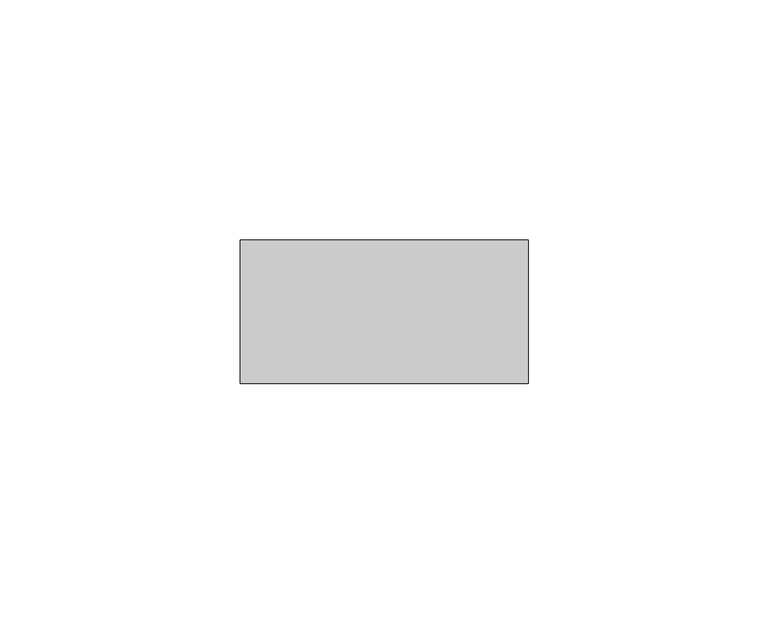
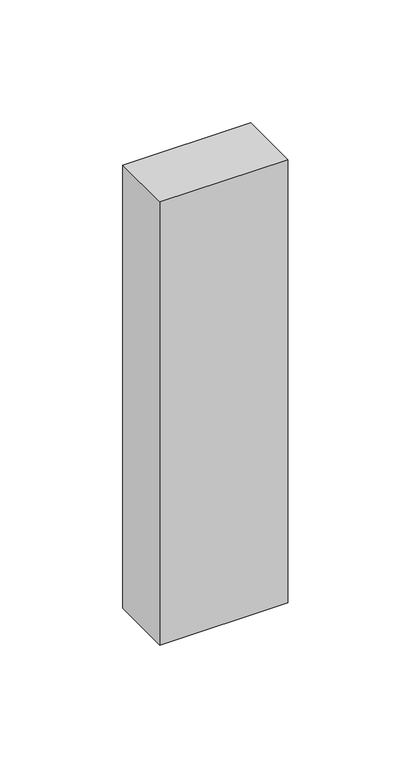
"""IFC4 building model written with IfcOpenShell, lengths in millimetres: member geometry, Прямоугольный импост : Квадрат 30 мм."""

from ifc_helpers import new_model, si_unit, frame, origin, place, context, project, spatial, polyline, outline, extrude, source, transform, mapped, element, save


def member_22bdb065(model_context):
    return source(origin(), model_context, "Body", "SweptSolid", [
        extrude(outline(polyline([(30.0, 15.0), (30.0, -15.0), (-30.0, -15.0), (-30.0, 15.0), (30.0, 15.0)])), frame((0.0, 0.0, -220.0), z_axis=(0.0, 0.0, 1.0), x_axis=(1.0, 0.0, 0.0)), (0.0, 0.0, 1.0), 220.0),
    ])


if __name__ == "__main__":
    model = new_model("IFC4")
    model_context = context("Model", 3, world=origin())
    ifc_project = project(units=[si_unit("LENGTHUNIT", "METRE", prefix="MILLI")], contexts=[model_context])
    site = spatial("IfcSite", under=ifc_project)
    building = spatial("IfcBuilding", under=site)
    placement = place(None, origin())
    member_shape = member_22bdb065(model_context)
    element("IfcMember", 1, ObjectType="Прямоугольный импост : Квадрат 30 мм", at=placement, inside=building, context=model_context, shape_type="MappedRepresentation", body=[
        mapped(member_shape, transform((0.0, 0.0, 0.0), x_axis=(1.0, 0.0, 0.0), y_axis=(0.0, 1.0, 0.0), z_axis=(0.0, 0.0, 1.0))),
    ])
    save(model, "model.ifc")
